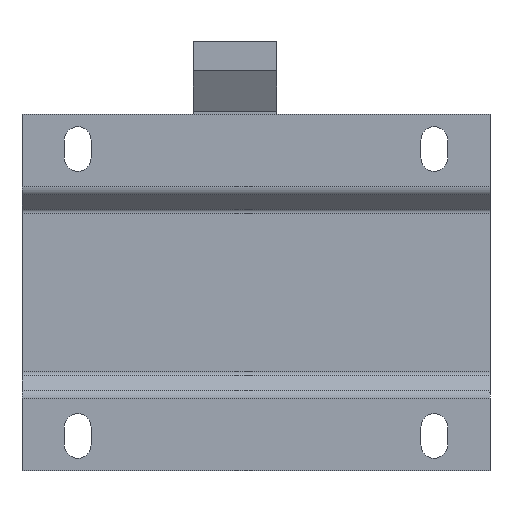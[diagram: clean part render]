
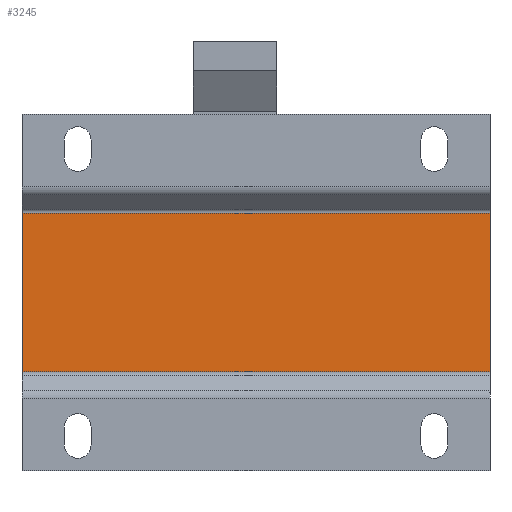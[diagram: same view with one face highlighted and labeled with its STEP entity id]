
A CAD part, front view. The second image highlights one B-rep face of the part: STEP entity #3245.
In plain terms, the highlighted planar face has unit normal (0, -1, 0).
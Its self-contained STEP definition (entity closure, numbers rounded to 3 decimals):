
#87=PLANE('',#3455);
#236=FACE_OUTER_BOUND('',#409,.T.);
#409=EDGE_LOOP('',(#2453,#2454,#2455,#2456));
#716=LINE('',#4871,#1102);
#717=LINE('',#4873,#1103);
#718=LINE('',#4875,#1104);
#719=LINE('',#4876,#1105);
#1102=VECTOR('',#3961,1000.);
#1103=VECTOR('',#3962,1000.);
#1104=VECTOR('',#3963,1000.);
#1105=VECTOR('',#3964,1000.);
#1501=VERTEX_POINT('',#4869);
#1502=VERTEX_POINT('',#4870);
#1503=VERTEX_POINT('',#4872);
#1504=VERTEX_POINT('',#4874);
#1844=EDGE_CURVE('',#1501,#1502,#716,.T.);
#1845=EDGE_CURVE('',#1501,#1503,#717,.T.);
#1846=EDGE_CURVE('',#1504,#1503,#718,.T.);
#1847=EDGE_CURVE('',#1502,#1504,#719,.T.);
#2453=ORIENTED_EDGE('',*,*,#1844,.F.);
#2454=ORIENTED_EDGE('',*,*,#1845,.T.);
#2455=ORIENTED_EDGE('',*,*,#1846,.F.);
#2456=ORIENTED_EDGE('',*,*,#1847,.F.);
#3245=ADVANCED_FACE('',(#236),#87,.F.);
#3455=AXIS2_PLACEMENT_3D('',#4868,#3959,#3960);
#3959=DIRECTION('center_axis',(0.,1.,0.));
#3960=DIRECTION('ref_axis',(0.,0.,
-1.));
#3961=DIRECTION('',(0.,0.,1.));
#3962=DIRECTION('',(1.,0.,0.));
#3963=DIRECTION('',(0.,0.,-1.));
#3964=DIRECTION('',(1.,0.,0.));
#4868=CARTESIAN_POINT('Origin',(0.,-36.,0.));
#4869=CARTESIAN_POINT('',(-42.,-36.,-14.25));
#4870=CARTESIAN_POINT('',(-42.,-36.,14.25));
#4871=CARTESIAN_POINT('',(-42.,-36.,32.));
#4872=CARTESIAN_POINT('',(42.,-36.,-14.25));
#4873=CARTESIAN_POINT('',(0.,-36.,-14.25));
#4874=CARTESIAN_POINT('',(42.,-36.,14.25));
#4875=CARTESIAN_POINT('',(42.,-36.,32.));
#4876=CARTESIAN_POINT('',(0.,-36.,14.25));
